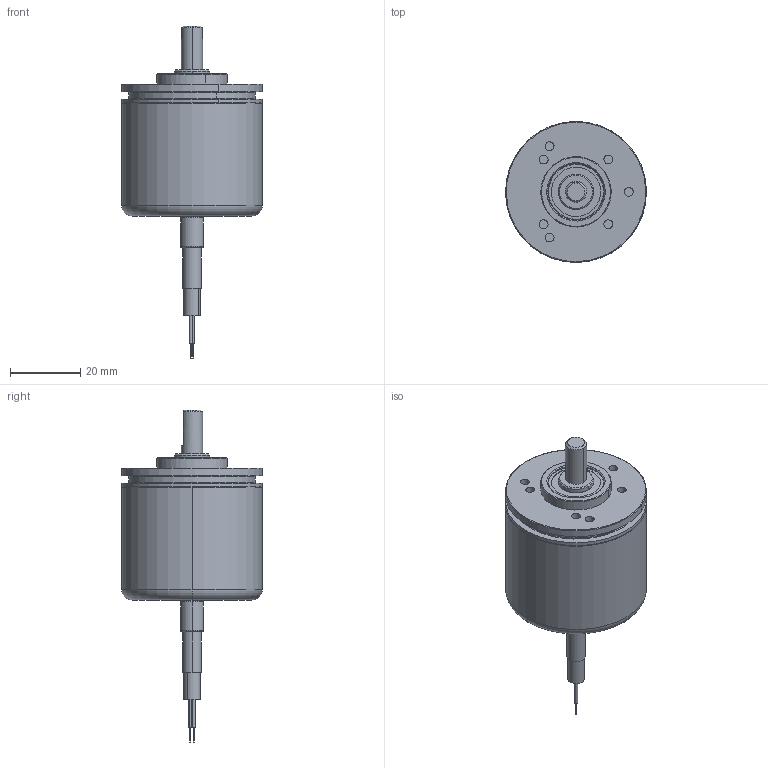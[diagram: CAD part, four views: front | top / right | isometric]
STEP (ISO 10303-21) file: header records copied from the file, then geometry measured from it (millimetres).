
FILE_DESCRIPTION (( 'STEP AP214' ), '1' );
FILE_NAME ('8_KIS40_13X1_XXXX.STEP', '2016-07-13T06:45:47', ( '' ), ( '' ), 'SwSTEP 2.0', 'SolidWorks 2015', '' );
FILE_SCHEMA (( 'AUTOMOTIVE_DESIGN' ));
Length unit declared in the file: inch
Products named in the file (1): 8_KIS40_13X1_XXXX
Bounding box: 40 x 40 x 94.34 mm (x, y, z)
Surface area: 9658.6 mm2 (no closed solid volume)
Topology: 0 solids, 7 shells, 92 faces, 210 edges, 136 vertices
Faces by surface type: cylinder 50, plane 20, torus 12, cone 10
Entity records: 3877 total; most frequent: DIRECTION 540, CARTESIAN_POINT 451, ORIENTED_EDGE 382, AXIS2_PLACEMENT_3D 239, EDGE_CURVE 210, CIRCLE 146, VERTEX_POINT 136, EDGE_LOOP 115
